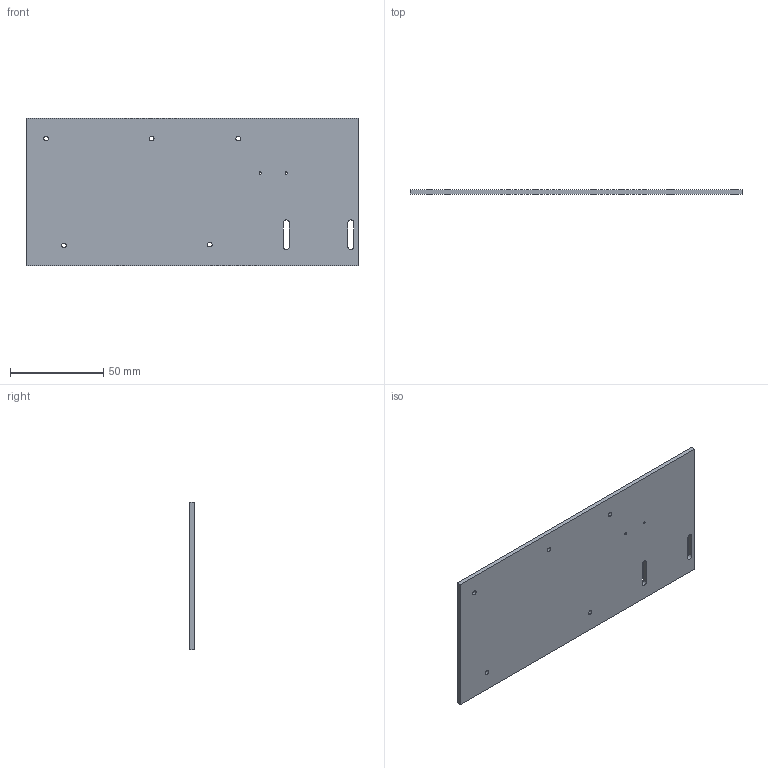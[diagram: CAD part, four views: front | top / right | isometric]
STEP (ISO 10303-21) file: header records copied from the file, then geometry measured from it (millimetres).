
FILE_DESCRIPTION (( 'STEP AP214' ), '1' );
FILE_NAME ('2514163.STEP', '2018-05-15T13:26:47', ( '' ), ( '' ), 'SwSTEP 2.0', 'SolidWorks 2016', '' );
FILE_SCHEMA (( 'AUTOMOTIVE_DESIGN' ));
Length unit declared in the file: inch
Products named in the file (1): 2514163
Bounding box: 177.8 x 2.29 x 78.74 mm (x, y, z)
Volume: 31719.6 mm3; surface area: 29193.9 mm2
Topology: 1 solids, 1 shells, 30 faces, 84 edges, 56 vertices
Faces by surface type: cylinder 20, plane 10
Entity records: 1064 total; most frequent: DIRECTION 186, CARTESIAN_POINT 171, ORIENTED_EDGE 168, EDGE_CURVE 84, AXIS2_PLACEMENT_3D 71, VERTEX_POINT 56, EDGE_LOOP 48, LINE 44
